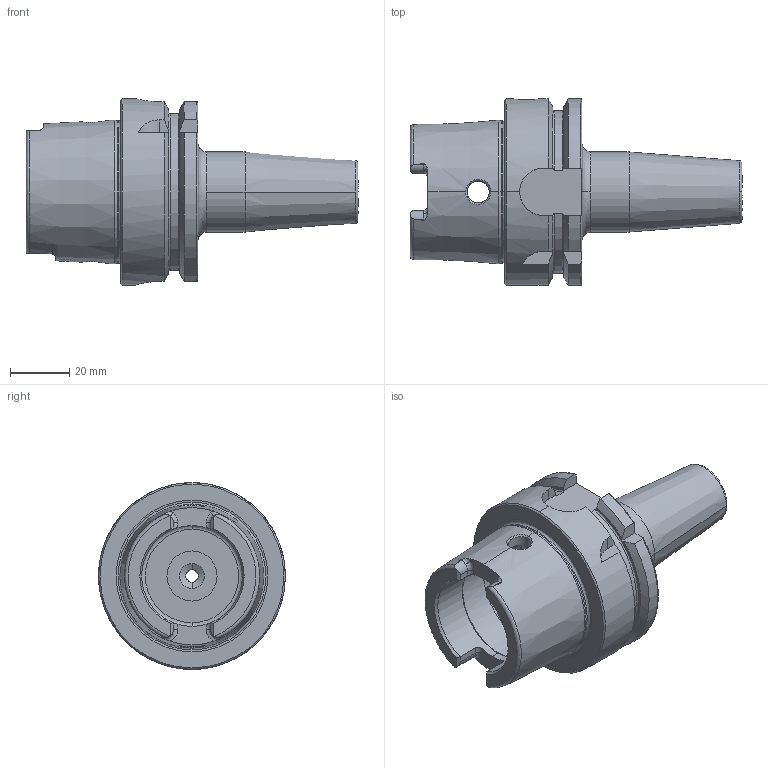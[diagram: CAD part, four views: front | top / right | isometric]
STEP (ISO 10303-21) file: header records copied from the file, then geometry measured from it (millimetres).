
FILE_DESCRIPTION (( 'STEP AP214' ), '1' );
FILE_NAME ('04-0482.STEP', '2021-08-03T16:44:31', ( '' ), ( '' ), 'SwSTEP 2.0', 'SolidWorks 2020', '' );
FILE_SCHEMA (( 'AUTOMOTIVE_DESIGN' ));
Length unit declared in the file: inch
Products named in the file (1): 04-0482
Bounding box: 112 x 63 x 63 mm (x, y, z)
Volume: 106561.9 mm3; surface area: 27188.6 mm2
Topology: 1 solids, 1 shells, 153 faces, 409 edges, 260 vertices
Faces by surface type: cylinder 49, bspline 41, plane 41, cone 22
Entity records: 8478 total; most frequent: CARTESIAN_POINT 4908, ORIENTED_EDGE 818, DIRECTION 656, EDGE_CURVE 409, AXIS2_PLACEMENT_3D 264, VERTEX_POINT 260, EDGE_LOOP 161, ADVANCED_FACE 153
